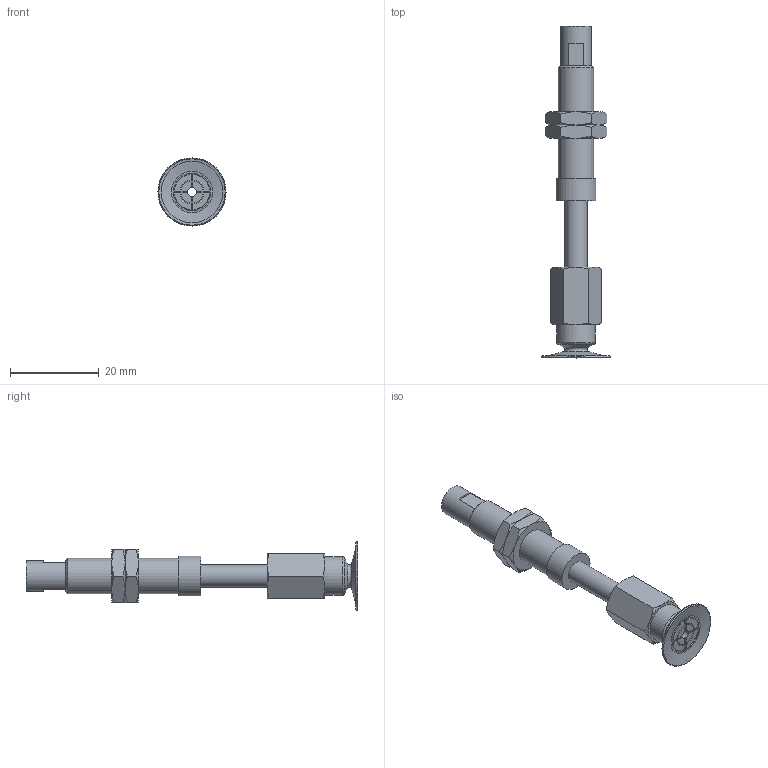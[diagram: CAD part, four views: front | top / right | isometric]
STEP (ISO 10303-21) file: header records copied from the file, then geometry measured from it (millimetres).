
FILE_DESCRIPTION(('STEP AP203'),'1');
FILE_NAME('.stp','2025-08-26T08:52:58',(' '),(' '),'Spatial InterOp 3D',' ',' ');
FILE_SCHEMA(('CONFIG_CONTROL_DESIGN'));
Length unit declared in the file: millimetre
Products named in the file (6): BNABPATS-15B-15-※; ADAPTER; NAPATS-10A-15--M; NAPATS-10A-15--F; Nut-10A-S; BPAG-15B-※_3D
Assembly tree (6 placements, depth 2):
  BNABPATS-15B-15-※
    ADAPTER
    NAPATS-10A-15--M
    NAPATS-10A-15--F
    Nut-10A-S  x2
    BPAG-15B-※_3D
Bounding box: 15.4 x 75 x 15.4 mm (x, y, z)
Volume: 3956.6 mm3; surface area: 4890.8 mm2
Topology: 6 solids, 6 shells, 155 faces, 345 edges, 209 vertices
Faces by surface type: plane 61, cone 55, cylinder 29, torus 10
Full cylindrical faces by diameter (mm): 2 x3, 4 x2, 4.134 x1, 5 x2, 6 x2, 7 x1, 7.188 x2, 8 x1, 8.5 x1, 8.7 x1, 9 x1
Entity records: 3928 total; most frequent: CARTESIAN_POINT 926, DIRECTION 570, ORIENTED_EDGE 500, EDGE_CURVE 250, AXIS2_PLACEMENT_3D 244, EDGE_LOOP 184, VERTEX_POINT 170, FACE_OUTER_BOUND 158
